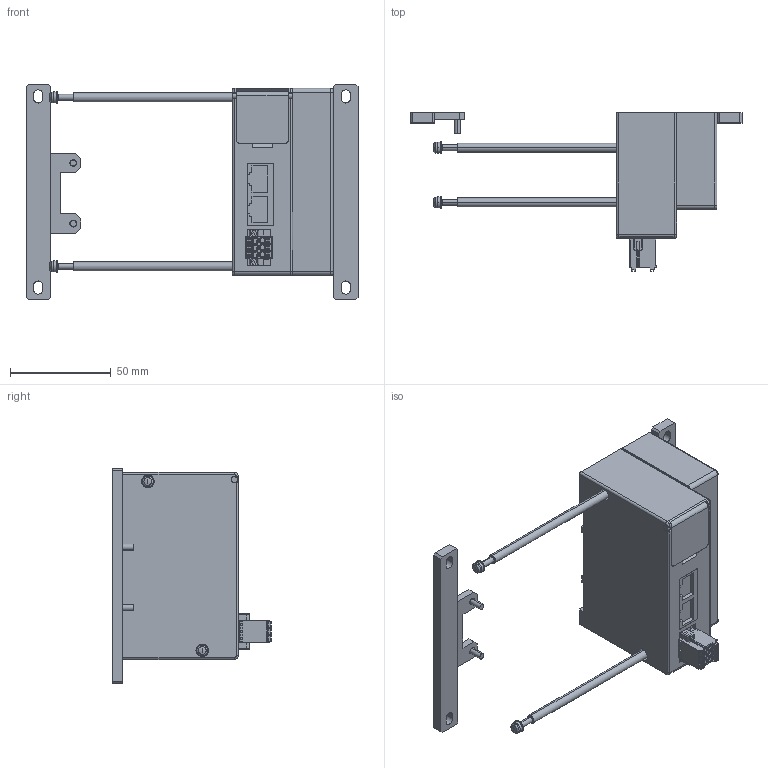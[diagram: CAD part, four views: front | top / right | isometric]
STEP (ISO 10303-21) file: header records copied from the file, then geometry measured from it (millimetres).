
FILE_DESCRIPTION( (''), '2;1');
FILE_NAME ('YS8EM3-4.stp','2022-12-01T14:43:32',(''),(''),'spGate 12.6.6','','');
FILE_SCHEMA (('AUTOMOTIVE_DESIGN'));
Length unit declared in the file: millimetre
Products named in the file (3): Assembly; YS8EM3-4-prt0; YS8EM3-4-prt1
Assembly tree (3 placements, depth 2):
  Assembly
    YS8EM3-4-prt0  x2
    YS8EM3-4-prt1
Bounding box: 165 x 78.8 x 107 mm (x, y, z)
Volume: 271339.1 mm3; surface area: 43706.5 mm2
Topology: 3 solids, 3 shells, 825 faces, 2127 edges, 1359 vertices
Faces by surface type: plane 501, cylinder 242, bspline 70, sphere 12
Entity records: 39929 total; most frequent: CARTESIAN_POINT 5493, ORIENTED_EDGE 3950, DIRECTION 3717, COLOUR_RGB 2744, PRESENTATION_STYLE_ASSIGNMENT 2744, STYLED_ITEM 2744, EDGE_CURVE 1975, DRAUGHTING_PRE_DEFINED_CURVE_FONT 1975
